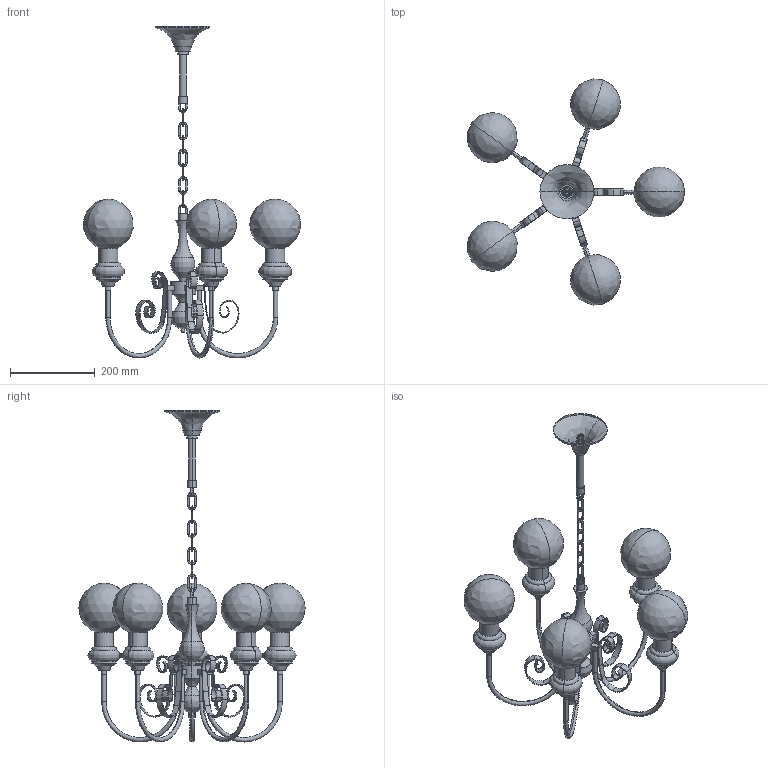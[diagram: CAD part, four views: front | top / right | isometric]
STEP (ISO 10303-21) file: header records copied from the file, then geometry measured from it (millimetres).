
FILE_DESCRIPTION(/* description */ (''),/* implementation_level */ '2;1');
FILE_NAME(/* name */ 'Onyx Chandelier',/* time_stamp */ '2026-06-12T17:44:50+08:00',/* author */ (''),/* organization */ (''),/* preprocessor_version */ 'ST-DEVELOPER v19.2',/* originating_system */ 'Rhino 8.25',/* authorisation */ '');
FILE_SCHEMA (('CONFIG_CONTROL_DESIGN'));
Length unit declared in the file: millimetre
Products named in the file (1): Document
Bounding box: 513.94 x 535.18 x 785.59 mm (x, y, z)
Volume: 1571712.7 mm3; surface area: 628890.4 mm2
Topology: 45 solids, 77 shells, 839 faces, 1744 edges, 956 vertices
Faces by surface type: plane 417, bspline 285, cylinder 137
Entity records: 28424 total; most frequent: CARTESIAN_POINT 15869, ORIENTED_EDGE 3266, EDGE_CURVE 1689, DIRECTION 1350, AXIS2_PLACEMENT_3D 952, VERTEX_POINT 951, EDGE_LOOP 845, ADVANCED_FACE 839
